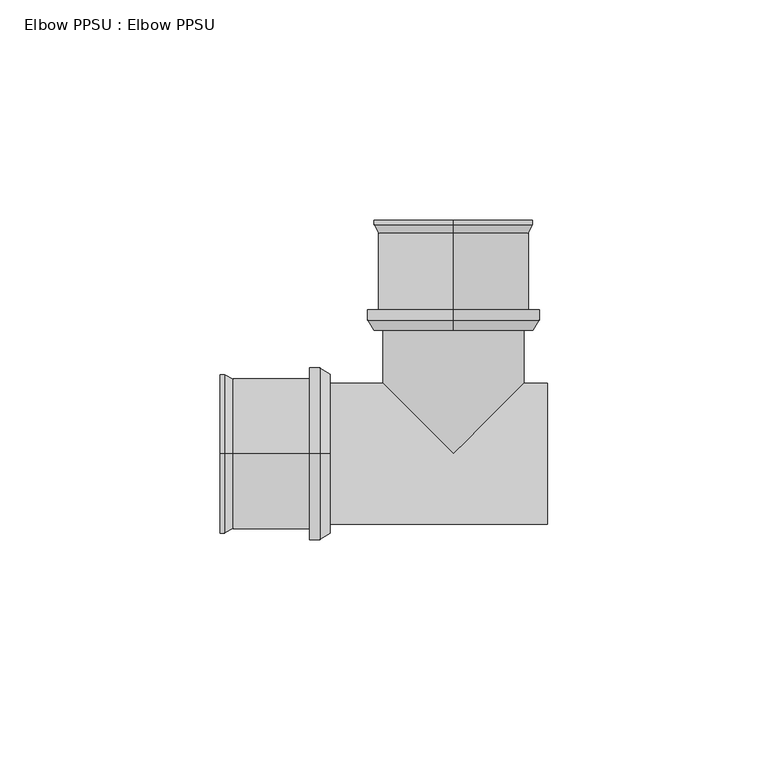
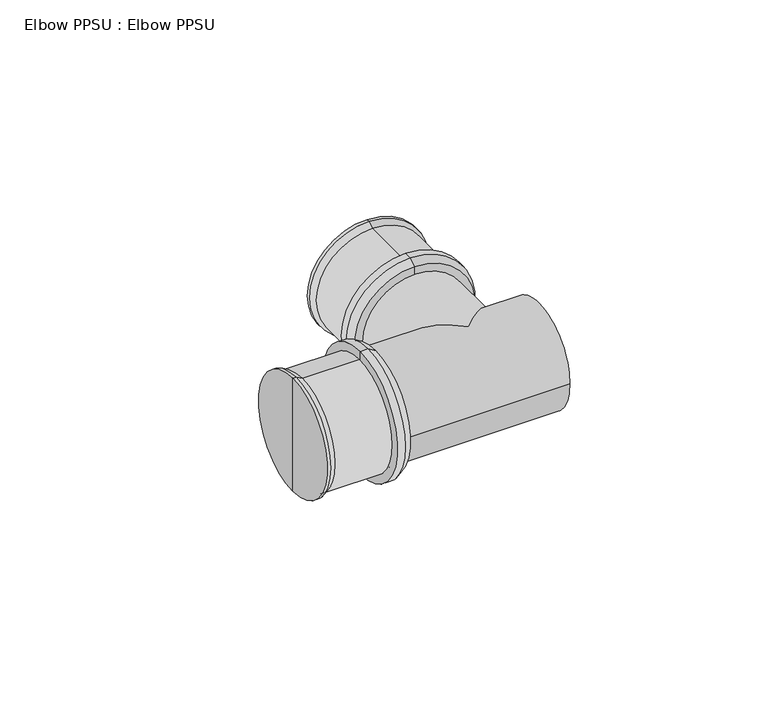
"""IFC4 building model written with IfcOpenShell, lengths in millimetres: pipe fitting geometry, Elbow PPSU : Elbow PPSU."""

from ifc_helpers import new_model, si_unit, frame, origin, place, context, project, spatial, polyline, circle_curve, ellipse_curve, source, transform, mapped, element, save
from ifc_brep_helpers import plane_surface, cylinder_surface, revolved_surface, advanced_brep


def elbow_ppsu_elbow_ppsu_fe614adc(model_context):
    return source(origin(), model_context, "Body", "AdvancedBrep", [
        advanced_brep(
        [(-28.0, 0.0, 0.0), (-28.0, 0.0, 18.1432269), (-28.0, 0.0, -18.1432269), (-32.7, 0.0, -19.5), (-32.7, 0.0, 19.5), (-32.7, 0.0, 0.0), (-30.35, 0.0, -19.5), (-30.35, 0.0, 19.5)],
        [
            (0, 1),
            (1, 2, circle_curve(frame((-28.0, 0.0, 0.0), z_axis=(1.0, 0.0, 0.0), x_axis=(0.0, 0.0, 1.0)), 18.1432269)),
            (2, 0),
            (2, 1, circle_curve(frame((-28.0, 0.0, 0.0), z_axis=(1.0, 0.0, 0.0), x_axis=(0.0, 0.0, 1.0)), 18.1432269)),
            (3, 4, circle_curve(frame((-32.7, 0.0, 0.0), z_axis=(-1.0, 0.0, 0.0), x_axis=(0.0, 0.0, 1.0)), 19.5)),
            (4, 5),
            (5, 3),
            (4, 3, circle_curve(frame((-32.7, 0.0, 0.0), z_axis=(-1.0, 0.0, 0.0), x_axis=(0.0, 0.0, 1.0)), 19.5)),
            (6, 7, circle_curve(frame((-30.35, 0.0, 0.0), z_axis=(-1.0, 0.0, 0.0), x_axis=(0.0, 0.0, 1.0)), 19.5)),
            (7, 4),
            (3, 6),
            (7, 6, circle_curve(frame((-30.35, 0.0, 0.0), z_axis=(-1.0, 0.0, 0.0), x_axis=(0.0, 0.0, 1.0)), 19.5)),
            (1, 7),
            (6, 2),
        ],
        [
            plane_surface(frame((-28.0, 0.0, 0.0), z_axis=(1.0, 0.0, 0.0), x_axis=(0.0, 0.0, 1.0))),
            plane_surface(frame((-32.7, 0.0, 0.0), z_axis=(-1.0, 0.0, 0.0), x_axis=(0.0, 0.0, 1.0))),
            cylinder_surface(frame((-29.0, 0.0, 0.0), z_axis=(1.0, 0.0, 0.0), x_axis=(0.0, 0.0, 1.0)), 19.5),
            revolved_surface(polyline([(-30.35, 0.0, 19.5), (-28.0, 0.0, 18.1432269)]), (-29.0, 0.0, 0.0), (1.0, 0.0, 0.0)),
        ],
        [
            (0, [[1, 2, 3]]),
            (0, [[-3, 4, -1]]),
            (1, [[5, 6, 7]]),
            (1, [[8, -7, -6]]),
            (2, [[9, 10, -5, 11]]),
            (2, [[12, -11, -8, -10]]),
            (3, [[-2, 13, -9, 14]]),
            (3, [[-4, -14, -12, -13]]),
        ],
    ),
        advanced_brep(
        [(-32.7, 0.0, -17.0), (-32.7, 0.0, 17.0), (-50.0, 0.0, 17.0), (-50.0, 0.0, -17.0), (-53.0, 0.0, -18.0), (-53.0, 0.0, 18.0), (-53.0, 0.0, 0.0), (-32.7, 0.0, 0.0), (-52.0, 0.0, -18.0), (-52.0, 0.0, 18.0)],
        [
            (0, 1, circle_curve(frame((-32.7, 0.0, 0.0), z_axis=(-1.0, 0.0, 0.0), x_axis=(0.0, 0.0, 1.0)), 17.0)),
            (1, 2),
            (2, 3, circle_curve(frame((-50.0, 0.0, 0.0), z_axis=(1.0, 0.0, 0.0), x_axis=(0.0, 0.0, 1.0)), 17.0)),
            (3, 0),
            (1, 0, circle_curve(frame((-32.7, 0.0, 0.0), z_axis=(-1.0, 0.0, 0.0), x_axis=(0.0, 0.0, 1.0)), 17.0)),
            (3, 2, circle_curve(frame((-50.0, 0.0, 0.0), z_axis=(1.0, 0.0, 0.0), x_axis=(0.0, 0.0, 1.0)), 17.0)),
            (4, 5, circle_curve(frame((-53.0, 0.0, 0.0), z_axis=(-1.0, 0.0, 0.0), x_axis=(0.0, 0.0, 1.0)), 18.0)),
            (5, 6),
            (6, 4),
            (5, 4, circle_curve(frame((-53.0, 0.0, 0.0), z_axis=(-1.0, 0.0, 0.0), x_axis=(0.0, 0.0, 1.0)), 18.0)),
            (7, 1),
            (0, 7),
            (8, 9, circle_curve(frame((-52.0, 0.0, 0.0), z_axis=(-1.0, 0.0, 0.0), x_axis=(0.0, 0.0, 1.0)), 18.0)),
            (9, 5),
            (4, 8),
            (9, 8, circle_curve(frame((-52.0, 0.0, 0.0), z_axis=(-1.0, 0.0, 0.0), x_axis=(0.0, 0.0, 1.0)), 18.0)),
            (2, 9),
            (8, 3),
        ],
        [
            cylinder_surface(frame((1882.8038476, 0.0, 0.0), z_axis=(1.0, 0.0, 0.0), x_axis=(0.0, 0.0, 1.0)), 17.0),
            plane_surface(frame((-53.0, 0.0, 0.0), z_axis=(-1.0, 0.0, 0.0), x_axis=(0.0, 0.0, 1.0))),
            plane_surface(frame((-32.7, 0.0, 0.0), z_axis=(1.0, 0.0, 0.0), x_axis=(0.0, 0.0, 1.0))),
            cylinder_surface(frame((1882.8038476, 0.0, 0.0), z_axis=(1.0, 0.0, 0.0), x_axis=(0.0, 0.0, 1.0)), 18.0),
            revolved_surface(polyline([(-52.0, 0.0, 18.0), (-50.0, 0.0, 17.0)]), (1882.8038476, 0.0, 0.0), (1.0, 0.0, 0.0)),
        ],
        [
            (0, [[1, 2, 3, 4]]),
            (0, [[5, -4, 6, -2]]),
            (1, [[7, 8, 9]]),
            (1, [[10, -9, -8]]),
            (2, [[11, -1, 12]]),
            (2, [[-12, -5, -11]]),
            (3, [[13, 14, -7, 15]]),
            (3, [[16, -15, -10, -14]]),
            (4, [[-3, 17, -13, 18]]),
            (4, [[-6, -18, -16, -17]]),
        ],
    ),
        advanced_brep(
        [(0.0, 28.0, 0.0), (0.0, 28.0, -18.1432269), (0.0, 28.0, 18.1432269), (0.0, 32.7, 19.5), (0.0, 32.7, -19.5), (0.0, 32.7, 0.0), (0.0, 30.35, 19.5), (0.0, 30.35, -19.5)],
        [
            (0, 1),
            (1, 2, circle_curve(frame((0.0, 28.0, 0.0), z_axis=(0.0, -1.0, 0.0), x_axis=(0.0, 0.0, -1.0)), 18.1432269)),
            (2, 0),
            (2, 1, circle_curve(frame((0.0, 28.0, 0.0), z_axis=(0.0, -1.0, 0.0), x_axis=(0.0, 0.0, -1.0)), 18.1432269)),
            (3, 4, circle_curve(frame((0.0, 32.7, 0.0), z_axis=(0.0, 1.0, 0.0), x_axis=(0.0, 0.0, -1.0)), 19.5)),
            (4, 5),
            (5, 3),
            (4, 3, circle_curve(frame((0.0, 32.7, 0.0), z_axis=(0.0, 1.0, 0.0), x_axis=(0.0, 0.0, -1.0)), 19.5)),
            (6, 7, circle_curve(frame((0.0, 30.35, 0.0), z_axis=(0.0, 1.0, 0.0), x_axis=(0.0, 0.0, -1.0)), 19.5)),
            (7, 4),
            (3, 6),
            (7, 6, circle_curve(frame((0.0, 30.35, 0.0), z_axis=(0.0, 1.0, 0.0), x_axis=(0.0, 0.0, -1.0)), 19.5)),
            (1, 7),
            (6, 2),
        ],
        [
            plane_surface(frame((0.0, 28.0, 0.0), z_axis=(0.0, -1.0, 0.0), x_axis=(0.0, 0.0, -1.0))),
            plane_surface(frame((0.0, 32.7, 0.0), z_axis=(0.0, 1.0, 0.0), x_axis=(0.0, 0.0, -1.0))),
            cylinder_surface(frame((0.0, 29.0, 0.0), z_axis=(0.0, -1.0, 0.0), x_axis=(0.0, 0.0, -1.0)), 19.5),
            revolved_surface(polyline([(0.0, 30.35, -19.5), (0.0, 28.0, -18.1432269)]), (0.0, 29.0, 0.0), (0.0, -1.0, 0.0)),
        ],
        [
            (0, [[1, 2, 3]]),
            (0, [[-3, 4, -1]]),
            (1, [[5, 6, 7]]),
            (1, [[8, -7, -6]]),
            (2, [[9, 10, -5, 11]]),
            (2, [[12, -11, -8, -10]]),
            (3, [[-2, 13, -9, 14]]),
            (3, [[-4, -14, -12, -13]]),
        ],
    ),
        advanced_brep(
        [(0.0, 32.7, 17.0), (0.0, 32.7, -17.0), (0.0, 50.0, -17.0), (0.0, 50.0, 17.0), (0.0, 53.0, 18.0), (0.0, 53.0, -18.0), (0.0, 53.0, 0.0), (0.0, 32.7, 0.0), (0.0, 52.0, 18.0), (0.0, 52.0, -18.0)],
        [
            (0, 1, circle_curve(frame((0.0, 32.7, 0.0), z_axis=(0.0, 1.0, 0.0), x_axis=(0.0, 0.0, -1.0)), 17.0)),
            (1, 2),
            (2, 3, circle_curve(frame((0.0, 50.0, 0.0), z_axis=(0.0, -1.0, 0.0), x_axis=(0.0, 0.0, -1.0)), 17.0)),
            (3, 0),
            (1, 0, circle_curve(frame((0.0, 32.7, 0.0), z_axis=(0.0, 1.0, 0.0), x_axis=(0.0, 0.0, -1.0)), 17.0)),
            (3, 2, circle_curve(frame((0.0, 50.0, 0.0), z_axis=(0.0, -1.0, 0.0), x_axis=(0.0, 0.0, -1.0)), 17.0)),
            (4, 5, circle_curve(frame((0.0, 53.0, 0.0), z_axis=(0.0, 1.0, 0.0), x_axis=(0.0, 0.0, -1.0)), 18.0)),
            (5, 6),
            (6, 4),
            (5, 4, circle_curve(frame((0.0, 53.0, 0.0), z_axis=(0.0, 1.0, 0.0), x_axis=(0.0, 0.0, -1.0)), 18.0)),
            (7, 1),
            (0, 7),
            (8, 9, circle_curve(frame((0.0, 52.0, 0.0), z_axis=(0.0, 1.0, 0.0), x_axis=(0.0, 0.0, -1.0)), 18.0)),
            (9, 5),
            (4, 8),
            (9, 8, circle_curve(frame((0.0, 52.0, 0.0), z_axis=(0.0, 1.0, 0.0), x_axis=(0.0, 0.0, -1.0)), 18.0)),
            (2, 9),
            (8, 3),
        ],
        [
            cylinder_surface(frame((0.0, -1882.8038476, 0.0), z_axis=(0.0, -1.0, 0.0), x_axis=(0.0, 0.0, -1.0)), 17.0),
            plane_surface(frame((0.0, 53.0, 0.0), z_axis=(0.0, 1.0, 0.0), x_axis=(0.0, 0.0, -1.0))),
            plane_surface(frame((0.0, 32.7, 0.0), z_axis=(0.0, -1.0, 0.0), x_axis=(0.0, 0.0, -1.0))),
            cylinder_surface(frame((0.0, -1882.8038476, 0.0), z_axis=(0.0, -1.0, 0.0), x_axis=(0.0, 0.0, -1.0)), 18.0),
            revolved_surface(polyline([(0.0, 52.0, -18.0), (0.0, 50.0, -17.0)]), (0.0, -1882.8038476, 0.0), (0.0, -1.0, 0.0)),
        ],
        [
            (0, [[1, 2, 3, 4]]),
            (0, [[5, -4, 6, -2]]),
            (1, [[7, 8, 9]]),
            (1, [[10, -9, -8]]),
            (2, [[11, -1, 12]]),
            (2, [[-12, -5, -11]]),
            (3, [[13, 14, -7, 15]]),
            (3, [[16, -15, -10, -14]]),
            (4, [[-3, 17, -13, 18]]),
            (4, [[-6, -18, -16, -17]]),
        ],
    ),
        advanced_brep(
        [(21.3333333, 16.0, 0.0), (21.3333333, -16.0, 0.0), (-29.0, 16.0, 0.0), (-29.0, -16.0, 0.0), (16.0, 16.0, 0.0), (0.0, 0.0, 16.0), (-16.0, 16.0, 0.0), (0.0, -16.0, 0.0), (0.0, 0.0, -16.0), (16.0, 29.0, 0.0), (-16.0, 29.0, 0.0)],
        [
            (0, 1, circle_curve(frame((21.3333333, 0.0, 0.0), z_axis=(1.0, 0.0, 0.0), x_axis=(0.0, -1.0, 0.0)), 16.0)),
            (1, 0, circle_curve(frame((21.3333333, 0.0, 0.0), z_axis=(1.0, 0.0, 0.0), x_axis=(0.0, -1.0, 0.0)), 16.0)),
            (2, 3, circle_curve(frame((-29.0, 0.0, 0.0), z_axis=(-1.0, 0.0, 0.0), x_axis=(0.0, -1.0, 0.0)), 16.0)),
            (3, 2, circle_curve(frame((-29.0, 0.0, 0.0), z_axis=(-1.0, 0.0, 0.0), x_axis=(0.0, -1.0, 0.0)), 16.0)),
            (0, 4),
            (4, 5, ellipse_curve(frame((0.0, 0.0, 0.0), z_axis=(0.7071067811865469, -0.7071067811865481, 0.0), x_axis=(0.7071067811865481, 0.7071067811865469, 0.0)), 22.627417, 16.0)),
            (5, 6, ellipse_curve(frame((0.0, 0.0, 0.0), z_axis=(-0.707106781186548, -0.7071067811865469, 0.0), x_axis=(0.7071067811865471, -0.7071067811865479, 0.0)), 22.627417, 16.0)),
            (6, 2),
            (3, 7),
            (7, 1),
            (6, 8, ellipse_curve(frame((0.0, 0.0, 0.0), z_axis=(-0.707106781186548, -0.7071067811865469, 0.0), x_axis=(0.7071067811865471, -0.7071067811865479, 0.0)), 22.627417, 16.0)),
            (8, 4, ellipse_curve(frame((0.0, 0.0, 0.0), z_axis=(0.7071067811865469, -0.7071067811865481, 0.0), x_axis=(0.7071067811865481, 0.7071067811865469, 0.0)), 22.627417, 16.0)),
            (9, 10, circle_curve(frame((0.0, 29.0, 0.0), z_axis=(0.0, 1.0, 0.0), x_axis=(-1.0, 0.0, 0.0)), 16.0)),
            (10, 9, circle_curve(frame((0.0, 29.0, 0.0), z_axis=(0.0, 1.0, 0.0), x_axis=(-1.0, 0.0, 0.0)), 16.0)),
            (10, 6),
            (4, 9),
        ],
        [
            plane_surface(frame((21.3333333, 0.0, 0.0), z_axis=(1.0, 0.0, 0.0), x_axis=(0.0, 0.0, 1.0))),
            plane_surface(frame((-29.0, 0.0, 0.0), z_axis=(-1.0, 0.0, 0.0), x_axis=(0.0, 0.0, 1.0))),
            cylinder_surface(frame((21.3333333, 0.0, 0.0), z_axis=(1.0, 0.0, 0.0), x_axis=(0.0, -1.0, 0.0)), 16.0),
            plane_surface(frame((0.0, 29.0, 0.0), z_axis=(0.0, 1.0, 0.0), x_axis=(0.0, 0.0, 1.0))),
            cylinder_surface(frame((0.0, 0.0, 0.0), z_axis=(0.0, -1.0, 0.0), x_axis=(-1.0, 0.0, 0.0)), 16.0),
        ],
        [
            (0, [[1, 2]]),
            (1, [[3, 4]]),
            (2, [[-1, 5, 6, 7, 8, -4, 9, 10]]),
            (2, [[-2, -10, -9, -3, -8, 11, 12, -5]]),
            (3, [[13, 14]]),
            (4, [[-14, 15, -7, -6, 16]]),
            (4, [[-13, -16, -12, -11, -15]]),
        ],
    ),
    ])


if __name__ == "__main__":
    model = new_model("IFC4")
    model_context = context("Model", 3, world=origin())
    ifc_project = project(units=[si_unit("LENGTHUNIT", "METRE", prefix="MILLI")], contexts=[model_context])
    site = spatial("IfcSite", under=ifc_project)
    building = spatial("IfcBuilding", under=site)
    placement = place(None, origin())
    elbow_ppsu_elbow_ppsu_shape = elbow_ppsu_elbow_ppsu_fe614adc(model_context)
    element("IfcPipeFitting", 1, ObjectType="Elbow PPSU : Elbow PPSU", at=placement, inside=building, context=model_context, shape_type="MappedRepresentation", body=[
        mapped(elbow_ppsu_elbow_ppsu_shape, transform((0.0, 0.0, 0.0), x_axis=(1.0, 0.0, 0.0), y_axis=(0.0, 1.0, 0.0), z_axis=(0.0, 0.0, 1.0))),
    ])
    save(model, "model.ifc")
